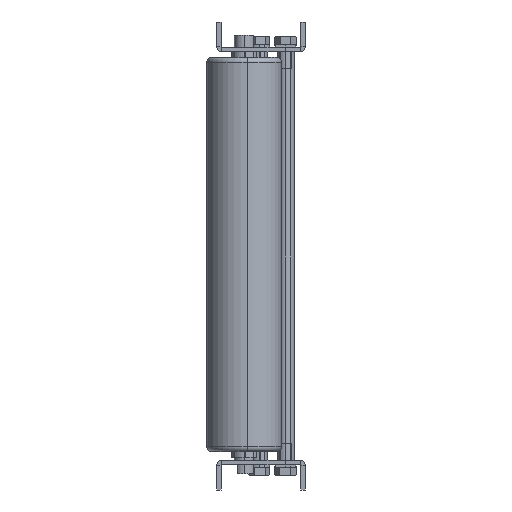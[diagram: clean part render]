
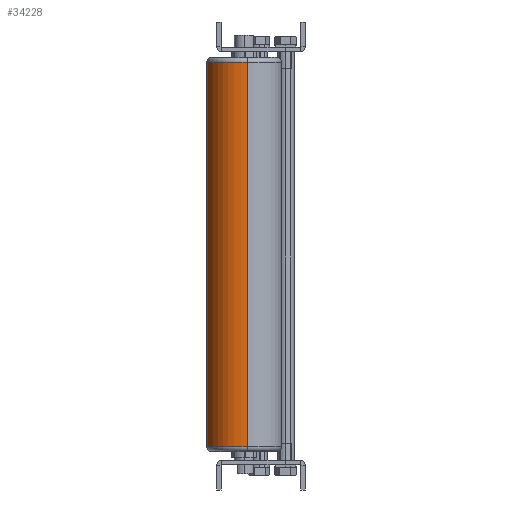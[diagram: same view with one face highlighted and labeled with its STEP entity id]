
A CAD part, left-side view. The second image highlights one B-rep face of the part: STEP entity #34228.
In plain terms, the highlighted cylindrical face has radius 38.15 mm (diameter 76.3 mm), a partial arc.
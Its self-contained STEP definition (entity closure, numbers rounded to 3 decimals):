
#1434 = CARTESIAN_POINT ( 'NONE',  ( -1523.776, 86.989, -21. ) ) ;
#1567 = VECTOR ( 'NONE', #24742, 1000. ) ;
#3139 = CARTESIAN_POINT ( 'NONE',  ( -1561.784, 83.705, -26. ) ) ;
#4410 = CIRCLE ( 'NONE', #11521, 38.15 ) ;
#7109 = CARTESIAN_POINT ( 'NONE',  ( -1485.768, 90.273, -21. ) ) ;
#9538 = VERTEX_POINT ( 'NONE', #23920 ) ;
#10322 = EDGE_CURVE ( 'NONE', #26647, #9538, #4410, .T. ) ;
#10760 = EDGE_CURVE ( 'NONE', #31055, #28950, #15392, .T. ) ;
#10980 = CARTESIAN_POINT ( 'NONE',  ( -1523.776, 86.989, -416. ) ) ;
#11128 = DIRECTION ( 'NONE',  ( 0., 0., -1. ) ) ;
#11521 = AXIS2_PLACEMENT_3D ( 'NONE', #10980, #29443, #17787 ) ;
#15392 = CIRCLE ( 'NONE', #25641, 38.15 ) ;
#17787 = DIRECTION ( 'NONE',  ( 0.996, 0.086, 0. ) ) ;
#18356 = EDGE_LOOP ( 'NONE', ( #31541, #26271, #19711, #18628 ) ) ;
#18628 = ORIENTED_EDGE ( 'NONE', *, *, #20376, .F. ) ;
#19711 = ORIENTED_EDGE ( 'NONE', *, *, #10322, .T. ) ;
#19781 = DIRECTION ( 'NONE',  ( 0., 0., -1. ) ) ;
#19927 = FACE_OUTER_BOUND ( 'NONE', #18356, .T. ) ;
#20376 = EDGE_CURVE ( 'NONE', #31055, #9538, #24948, .T. ) ;
#20747 = CARTESIAN_POINT ( 'NONE',  ( -1523.776, 86.989, -26. ) ) ;
#21093 = AXIS2_PLACEMENT_3D ( 'NONE', #1434, #32183, #23150 ) ;
#23150 = DIRECTION ( 'NONE',  ( -0.996, -0.086, 0. ) ) ;
#23920 = CARTESIAN_POINT ( 'NONE',  ( -1561.784, 83.705, -416. ) ) ;
#24742 = DIRECTION ( 'NONE',  ( 0., 0., -1. ) ) ;
#24948 = LINE ( 'NONE', #34580, #1567 ) ;
#25641 = AXIS2_PLACEMENT_3D ( 'NONE', #20747, #11128, #26982 ) ;
#26271 = ORIENTED_EDGE ( 'NONE', *, *, #35980, .T. ) ;
#26647 = VERTEX_POINT ( 'NONE', #30373 ) ;
#26982 = DIRECTION ( 'NONE',  ( 0.996, 0.086, 0. ) ) ;
#28950 = VERTEX_POINT ( 'NONE', #32583 ) ;
#29443 = DIRECTION ( 'NONE',  ( 0., 0., 1. ) ) ;
#29562 = CYLINDRICAL_SURFACE ( 'NONE', #21093, 38.15 ) ;
#30373 = CARTESIAN_POINT ( 'NONE',  ( -1485.768, 90.273, -416. ) ) ;
#31055 = VERTEX_POINT ( 'NONE', #3139 ) ;
#31483 = VECTOR ( 'NONE', #19781, 1000. ) ;
#31541 = ORIENTED_EDGE ( 'NONE', *, *, #10760, .T. ) ;
#32183 = DIRECTION ( 'NONE',  ( 0., 0., -1. ) ) ;
#32583 = CARTESIAN_POINT ( 'NONE',  ( -1485.768, 90.273, -26. ) ) ;
#34228 = ADVANCED_FACE ( 'NONE', ( #19927 ), #29562, .T. ) ;
#34580 = CARTESIAN_POINT ( 'NONE',  ( -1561.784, 83.705, -21. ) ) ;
#35980 = EDGE_CURVE ( 'NONE', #28950, #26647, #37888, .T. ) ;
#37888 = LINE ( 'NONE', #7109, #31483 ) ;
